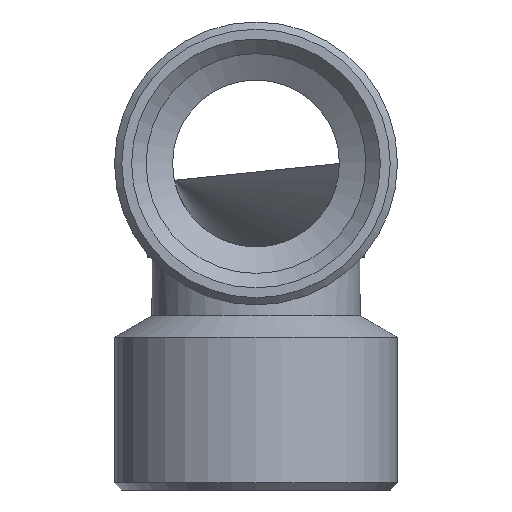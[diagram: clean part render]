
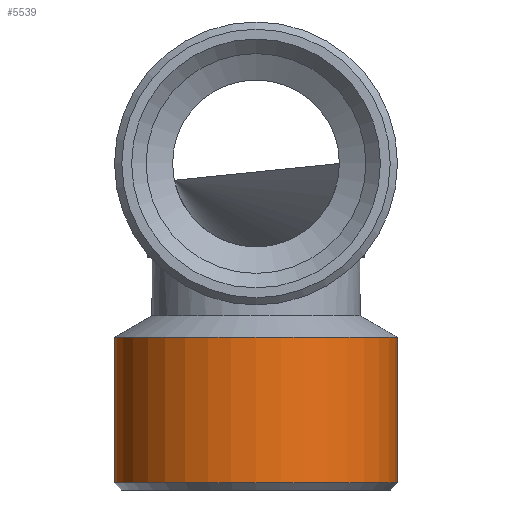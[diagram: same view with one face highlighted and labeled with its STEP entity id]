
A CAD part, left-side view. The second image highlights one B-rep face of the part: STEP entity #5539.
In plain terms, the highlighted cylindrical face has radius 19.5 mm (diameter 39 mm), a full revolution.
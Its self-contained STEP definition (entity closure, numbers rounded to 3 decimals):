
#1446=CYLINDRICAL_SURFACE('',#5410,19.5);
#1488=ORIENTED_EDGE('',*,*,#1882,.F.);
#1489=ORIENTED_EDGE('',*,*,#1883,.T.);
#1742=CIRCLE('',#5409,19.5);
#1743=CIRCLE('',#5411,19.5);
#1788=VERTEX_POINT('',#2466);
#1789=VERTEX_POINT('',#2469);
#1882=EDGE_CURVE('',#1788,#1788,#1742,.T.);
#1883=EDGE_CURVE('',#1789,#1789,#1743,.T.);
#2012=EDGE_LOOP('',(#1488));
#2013=EDGE_LOOP('',(#1489));
#2098=FACE_BOUND('',#2012,.T.);
#2099=FACE_BOUND('',#2013,.T.);
#2188=DIRECTION('',(0.,-1.,0.));
#2189=DIRECTION('',(0.,0.,19.5));
#2190=DIRECTION('',(0.,1.,0.));
#2191=DIRECTION('',(1.,0.,0.));
#2192=DIRECTION('',(0.,-1.,0.));
#2193=DIRECTION('',(0.,0.,19.5));
#2466=CARTESIAN_POINT('',(54.185,-37.789,19.5));
#2467=CARTESIAN_POINT('',(54.185,-37.789,0.));
#2468=CARTESIAN_POINT('',(54.185,-37.789,0.));
#2469=CARTESIAN_POINT('',(54.185,-17.762,19.5));
#2470=CARTESIAN_POINT('',(54.185,-17.762,0.));
#5409=AXIS2_PLACEMENT_3D('',#2467,#2188,#2189);
#5410=AXIS2_PLACEMENT_3D('',#2468,#2190,#2191);
#5411=AXIS2_PLACEMENT_3D('',#2470,#2192,#2193);
#5539=ADVANCED_FACE('',(#2098,#2099),#1446,.T.);
